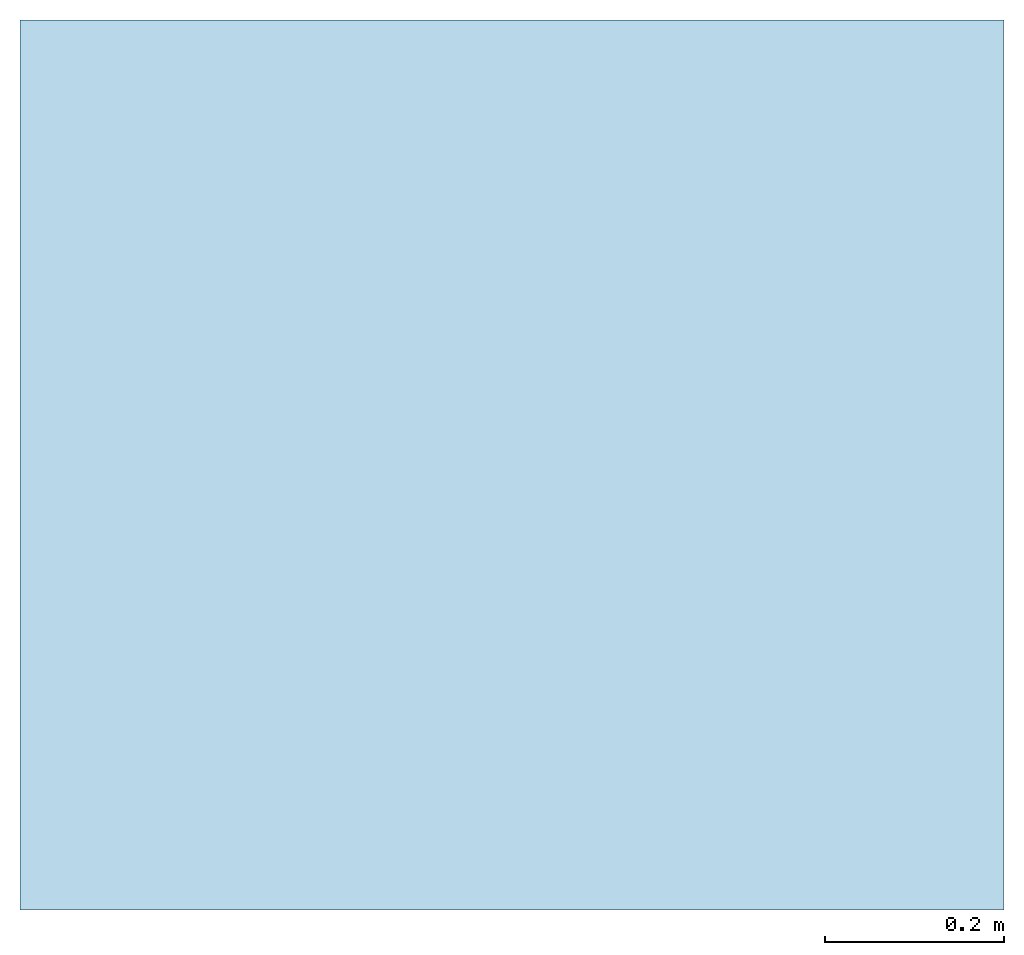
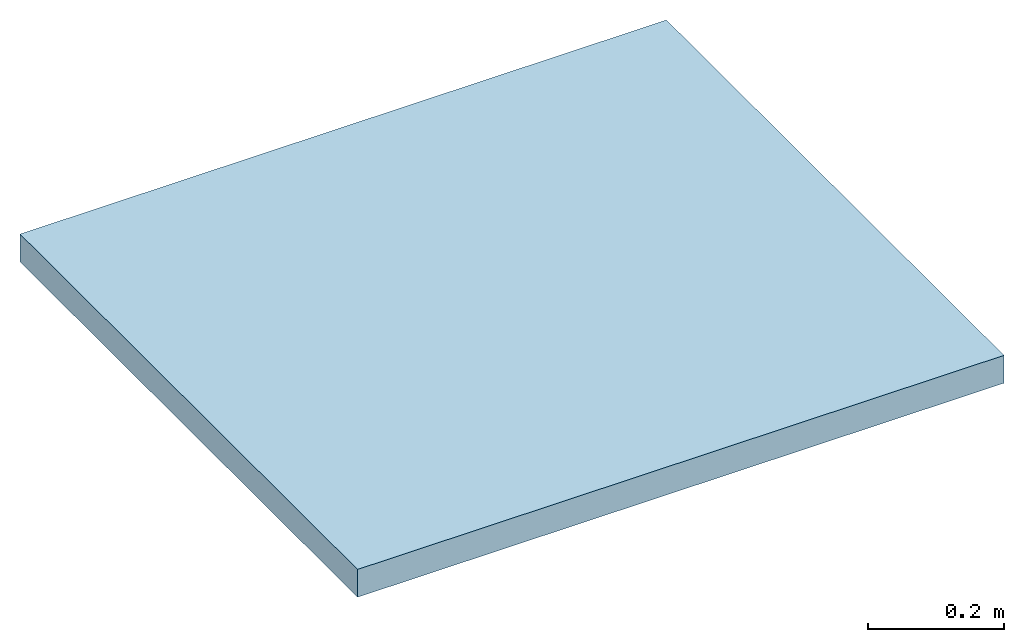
# One storey: 1 slab.
"""IFC4 building model written with IfcOpenShell, lengths in metres."""

from ifc_helpers import new_model, entity, si_unit, converted_unit, direction, frame, frame_2d, origin, place, context, subcontext, project, spatial, rectangle, extrude, material, type_object, element, save


model = new_model("IFC4")

# Units and contexts
model_context = context("Model", 3, precision=1e-05, world=origin(), true_north=direction((6.123031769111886e-17, 1.0)))
body_context = subcontext(model_context, "Body", "Model", "MODEL_VIEW")
ifc_project = project(units=[si_unit("LENGTHUNIT", "METRE"), converted_unit("PLANEANGLEUNIT", "DEGREE", entity("IfcPlaneAngleMeasure", 0.017453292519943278), si_unit("PLANEANGLEUNIT", "RADIAN"), dimensions=[0, 0, 0, 0, 0, 0, 0]), si_unit("AREAUNIT", "SQUARE_METRE")], contexts=[model_context])

# Site, building, storey
site_placement = place(None, origin())
site = spatial("IfcSite", under=ifc_project, at=site_placement, Name="Default", CompositionType="ELEMENT")
building_placement = place(site_placement, origin())
building = spatial("IfcBuilding", under=site, at=building_placement, CompositionType="ELEMENT")
storey_placement = place(building_placement, origin())
storey = spatial("IfcBuildingStorey", under=building, at=storey_placement, Name="Ebene 0", CompositionType="ELEMENT", Elevation=0.0)

# Slab
ifc_material = material(Name="DB_Magerbeton", Category="DB_Beton")
slab_type = type_object("IfcSlabType", Name="DB_ABS_Winkelstuetze_Sauberkeitsschicht_variabel:DB_ABS_Winkelstuetze_Sauberkeitsschicht_variabel", PredefinedType="BASESLAB", material=ifc_material)
slab_placement = place(storey_placement, origin())
element("IfcSlab", 1, at=slab_placement, inside=storey, type_object=slab_type, Name="DB_ABS_Winkelstuetze_Sauberkeitsschicht_variabel:DB_ABS_Winkelstuetze_Sauberkeitsschicht_variabel", ObjectType="DB_ABS_Winkelstuetze_Sauberkeitsschicht_variabel:DB_ABS_Winkelstuetze_Sauberkeitsschicht_variabel", PredefinedType="BASESLAB", context=body_context, shape_type="SweptSolid", body=[
    extrude(rectangle(XDim=1.0999999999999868, YDim=0.9949999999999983, at=frame_2d((-1.1102230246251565e-16, 4.996003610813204e-16), x_axis=(1.0, 0.0))), frame((0.5000000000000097, 0.4999999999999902, -0.050000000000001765)), (0.0, 0.0, 1.0), 0.0499999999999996),
])

save(model, "model.ifc")
